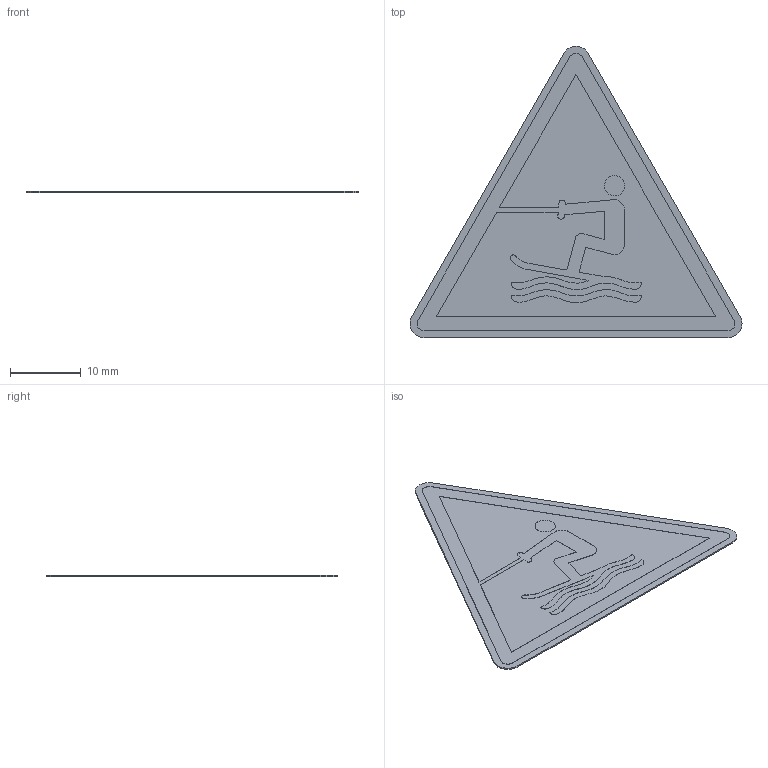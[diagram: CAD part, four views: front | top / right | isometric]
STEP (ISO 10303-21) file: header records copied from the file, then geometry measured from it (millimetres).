
FILE_DESCRIPTION (( 'STEP AP214' ), '1' );
FILE_NAME ('W045_Warnung vor Wasserski-Bereich.STEP', '2022-03-03T14:13:53', ( '' ), ( '' ), 'SwSTEP 2.0', 'SolidWorks 2021', '' );
FILE_SCHEMA (( 'AUTOMOTIVE_DESIGN' ));
Length unit declared in the file: millimetre
Products named in the file (1): W045_Warnung vor Wasserski-Bereich
Bounding box: 47.07 x 41.3 x 0.22 mm (x, y, z)
Volume: 222 mm3; surface area: 2185.5 mm2
Topology: 1 solids, 1 shells, 175 faces, 507 edges, 338 vertices
Faces by surface type: plane 131, cylinder 44
Entity records: 7589 total; most frequent: CARTESIAN_POINT 1021, ORIENTED_EDGE 1014, DIRECTION 947, EDGE_CURVE 507, VECTOR 419, LINE 419, VERTEX_POINT 338, AXIS2_PLACEMENT_3D 264
